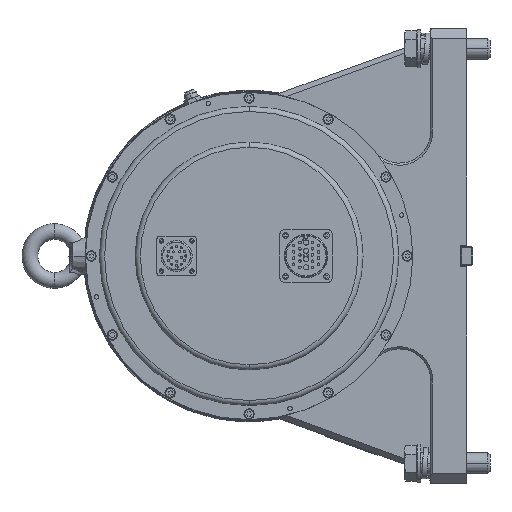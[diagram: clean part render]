
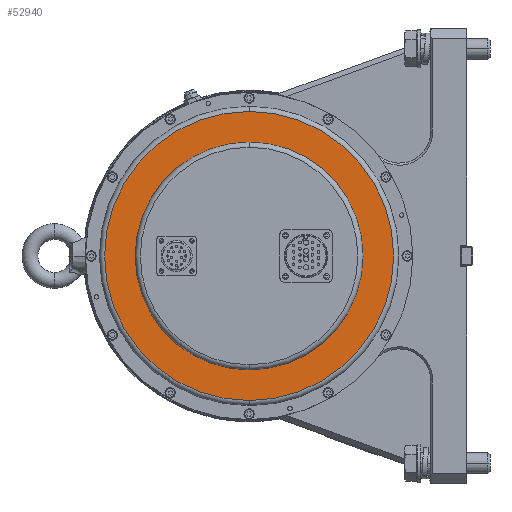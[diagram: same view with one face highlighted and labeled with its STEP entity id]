
A CAD part, left-side view. The second image highlights one B-rep face of the part: STEP entity #52940.
In plain terms, the highlighted planar face has unit normal (-1, 0, 0).
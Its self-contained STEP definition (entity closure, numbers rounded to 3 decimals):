
#2394 = CARTESIAN_POINT ( 'NONE',  ( -198., 0., -110. ) ) ;
#5347 = CARTESIAN_POINT ( 'NONE',  ( -198., 0., 139.5 ) ) ;
#7076 = VERTEX_POINT ( 'NONE', #2394 ) ;
#8379 = DIRECTION ( 'NONE',  ( 0., 0., -1. ) ) ;
#9527 = DIRECTION ( 'NONE',  ( 1., 0., 0. ) ) ;
#10064 = ORIENTED_EDGE ( 'NONE', *, *, #31896, .T. ) ;
#27978 = DIRECTION ( 'NONE',  ( -1., 0., 0. ) ) ;
#30621 = DIRECTION ( 'NONE',  ( 1., 0., 0. ) ) ;
#31896 = EDGE_CURVE ( 'NONE', #77154, #7076, #99971, .T. ) ;
#34567 = CIRCLE ( 'NONE', #39042, 110. ) ;
#36519 = DIRECTION ( 'NONE',  ( 0., 0., -1. ) ) ;
#37204 = CIRCLE ( 'NONE', #119609, 139.5 ) ;
#39042 = AXIS2_PLACEMENT_3D ( 'NONE', #122952, #101498, #36519 ) ;
#39276 = EDGE_CURVE ( 'NONE', #96900, #137468, #123267, .T. ) ;
#39630 = ORIENTED_EDGE ( 'NONE', *, *, #39276, .T. ) ;
#42773 = CARTESIAN_POINT ( 'NONE',  ( -198., 0., 110. ) ) ;
#43850 = CARTESIAN_POINT ( 'NONE',  ( -198., 0., 0. ) ) ;
#45546 = EDGE_LOOP ( 'NONE', ( #59116, #10064 ) ) ;
#46821 = EDGE_CURVE ( 'NONE', #137468, #96900, #37204, .T. ) ;
#52802 = DIRECTION ( 'NONE',  ( 0., 0., -1. ) ) ;
#52940 = ADVANCED_FACE ( 'NONE', ( #105360, #80947 ), #71887, .F. ) ;
#59116 = ORIENTED_EDGE ( 'NONE', *, *, #123621, .T. ) ;
#66865 = DIRECTION ( 'NONE',  ( -1., 0., 0. ) ) ;
#71887 = PLANE ( 'NONE',  #136537 ) ;
#77154 = VERTEX_POINT ( 'NONE', #42773 ) ;
#77171 = EDGE_LOOP ( 'NONE', ( #96722, #39630 ) ) ;
#80947 = FACE_BOUND ( 'NONE', #45546, .T. ) ;
#81045 = AXIS2_PLACEMENT_3D ( 'NONE', #43850, #66865, #86428 ) ;
#83010 = DIRECTION ( 'NONE',  ( 0., 0., -1. ) ) ;
#86428 = DIRECTION ( 'NONE',  ( 0., 0., -1. ) ) ;
#96722 = ORIENTED_EDGE ( 'NONE', *, *, #46821, .T. ) ;
#96900 = VERTEX_POINT ( 'NONE', #5347 ) ;
#99971 = CIRCLE ( 'NONE', #126627, 110. ) ;
#101498 = DIRECTION ( 'NONE',  ( 1., 0., 0. ) ) ;
#105360 = FACE_OUTER_BOUND ( 'NONE', #77171, .T. ) ;
#115709 = CARTESIAN_POINT ( 'NONE',  ( -198., 0., 0. ) ) ;
#119609 = AXIS2_PLACEMENT_3D ( 'NONE', #134574, #27978, #8379 ) ;
#122952 = CARTESIAN_POINT ( 'NONE',  ( -198., 0., 0. ) ) ;
#123267 = CIRCLE ( 'NONE', #81045, 139.5 ) ;
#123621 = EDGE_CURVE ( 'NONE', #7076, #77154, #34567, .T. ) ;
#126627 = AXIS2_PLACEMENT_3D ( 'NONE', #115709, #9527, #52802 ) ;
#132786 = CARTESIAN_POINT ( 'NONE',  ( -198., 0., -139.5 ) ) ;
#134574 = CARTESIAN_POINT ( 'NONE',  ( -198., 0., 0. ) ) ;
#136537 = AXIS2_PLACEMENT_3D ( 'NONE', #136579, #30621, #83010 ) ;
#136579 = CARTESIAN_POINT ( 'NONE',  ( -198., 0., 144.5 ) ) ;
#137468 = VERTEX_POINT ( 'NONE', #132786 ) ;
